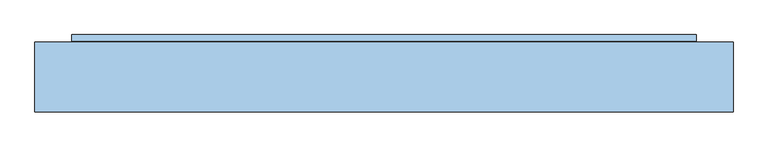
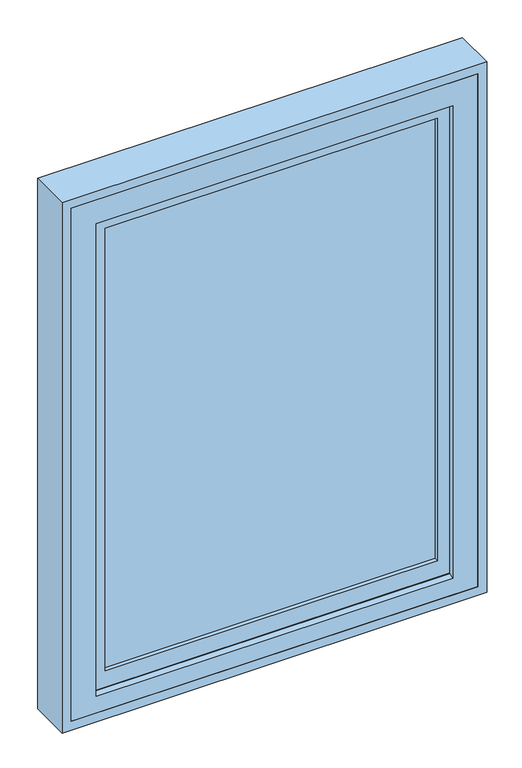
"""IFC4 building model written with IfcOpenShell, lengths in millimetres: window geometry, Окно 1-Распашное - Разделенные наружные и парные внутренние переплеты с остеклением - ГОСТ 11214-2003 : ОД РСП Г1 1760-1320-138 ГОСТ 11214-2003."""

from ifc_helpers import new_model, si_unit, frame, origin, place, context, project, spatial, polyline, outline, extrude, faceted_brep, source, transform, mapped, element, save


def window_8fb4b093(model_context):
    return source(origin(), model_context, "Body", "SolidModel", [
        extrude(outline(polyline([(2620.0, 670.0), (2620.0, -710.0), (800.0, -710.0), (800.0, 670.0), (2620.0, 670.0)]), holes=[polyline([(2590.0, -680.0), (2590.0, 640.0), (830.0, 640.0), (830.0, -680.0), (2590.0, -680.0)])]), frame((0.0, -305.0, 0.0), z_axis=(0.0, 1.0, 0.0), x_axis=(0.0, 0.0, 1.0)), (0.0, 0.0, 1.0), 138.0),
        extrude(outline(polyline([(-579.0, -271.0), (539.0, -271.0), (539.0, -274.0), (-579.0, -274.0), (-579.0, -271.0)])), frame((0.0, 0.0, 931.0), z_axis=(0.0, 0.0, 1.0), x_axis=(1.0, 0.0, 0.0)), (0.0, 0.0, 1.0), 1558.0),
        extrude(outline(polyline([(-592.0, -212.0), (552.0, -212.0), (552.0, -215.0), (-592.0, -215.0), (-592.0, -212.0)])), frame((0.0, 0.0, 918.0), z_axis=(0.0, 0.0, 1.0), x_axis=(1.0, 0.0, 0.0)), (0.0, 0.0, 1.0), 1584.0),
        extrude(outline(polyline([(-592.0, -165.0), (552.0, -165.0), (552.0, -168.0), (-592.0, -168.0), (-592.0, -165.0)])), frame((0.0, 0.0, 918.0), z_axis=(0.0, 0.0, 1.0), x_axis=(1.0, 0.0, 0.0)), (0.0, 0.0, 1.0), 1584.0),
        faceted_brep([(584.0, -259.0, 2534.0), (584.0, -259.0, 886.0), (584.0, -246.0, 886.0), (584.0, -246.0, 2534.0), (-624.0, -246.0, 886.0), (-624.0, -246.0, 2534.0), (519.0, -246.0, 951.0), (519.0, -246.0, 2469.0), (-559.0, -246.0, 2469.0), (-559.0, -246.0, 951.0), (-624.0, -259.0, 886.0), (-624.0, -259.0, 2534.0), (575.0, -259.0, 2525.0), (575.0, -259.0, 895.0), (-615.0, -259.0, 895.0), (-615.0, -259.0, 2525.0), (575.0, -287.0, 2525.0), (575.0, -287.0, 895.0), (-615.0, -287.0, 895.0), (-615.0, -287.0, 2525.0), (519.0, -287.0, 2469.0), (519.0, -287.0, 951.0), (-559.0, -287.0, 951.0), (-559.0, -287.0, 2469.0), (519.0, -271.0, 951.0), (519.0, -271.0, 2469.0), (539.0, -271.0, 931.0), (539.0, -271.0, 2489.0), (-579.0, -271.0, 2489.0), (-579.0, -271.0, 931.0), (-559.0, -271.0, 951.0), (-559.0, -271.0, 2469.0), (-559.0, -274.0, 951.0), (-559.0, -274.0, 2469.0), (519.0, -274.0, 951.0), (519.0, -274.0, 2469.0), (539.0, -274.0, 2489.0), (539.0, -274.0, 931.0), (-579.0, -274.0, 931.0), (-579.0, -274.0, 2489.0)], [[[0, 1, 2, 3]], [[3, 2, 4, 5], [6, 7, 8, 9]], [[1, 10, 4, 2]], [[1, 0, 11, 10], [12, 13, 14, 15]], [[16, 17, 13, 12]], [[17, 18, 14, 13]], [[17, 16, 19, 18], [20, 21, 22, 23]], [[7, 6, 24, 25]], [[26, 27, 28, 29], [25, 24, 30, 31]], [[6, 9, 30, 24]], [[10, 11, 5, 4]], [[18, 19, 15, 14]], [[9, 8, 31, 30]], [[32, 33, 23, 22]], [[34, 32, 22, 21]], [[35, 34, 21, 20]], [[36, 37, 38, 39], [34, 35, 33, 32]], [[27, 26, 37, 36]], [[26, 29, 38, 37]], [[29, 28, 39, 38]], [[11, 0, 3, 5]], [[19, 16, 12, 15]], [[8, 7, 25, 31]], [[33, 35, 20, 23]], [[28, 27, 36, 39]]]),
        faceted_brep([(587.0, -228.0, 2537.0), (587.0, -228.0, 883.0), (587.0, -196.0, 883.0), (587.0, -196.0, 2537.0), (-627.0, -196.0, 883.0), (-627.0, -196.0, 2537.0), (532.0, -196.0, 938.0), (532.0, -196.0, 2482.0), (-572.0, -196.0, 2482.0), (-572.0, -196.0, 938.0), (-627.0, -228.0, 883.0), (-627.0, -228.0, 2537.0), (532.0, -228.0, 2482.0), (532.0, -228.0, 938.0), (-572.0, -228.0, 938.0), (-572.0, -228.0, 2482.0), (532.0, -212.0, 938.0), (532.0, -212.0, 2482.0), (552.0, -212.0, 918.0), (552.0, -212.0, 2502.0), (-592.0, -212.0, 2502.0), (-592.0, -212.0, 918.0), (-572.0, -212.0, 938.0), (-572.0, -212.0, 2482.0), (-572.0, -215.0, 938.0), (-572.0, -215.0, 2482.0), (532.0, -215.0, 938.0), (532.0, -215.0, 2482.0), (552.0, -215.0, 2502.0), (552.0, -215.0, 918.0), (-592.0, -215.0, 918.0), (-592.0, -215.0, 2502.0)], [[[0, 1, 2, 3]], [[3, 2, 4, 5], [6, 7, 8, 9]], [[1, 10, 4, 2]], [[1, 0, 11, 10], [12, 13, 14, 15]], [[7, 6, 16, 17]], [[18, 19, 20, 21], [17, 16, 22, 23]], [[6, 9, 22, 16]], [[10, 11, 5, 4]], [[9, 8, 23, 22]], [[24, 25, 15, 14]], [[26, 24, 14, 13]], [[27, 26, 13, 12]], [[28, 29, 30, 31], [26, 27, 25, 24]], [[19, 18, 29, 28]], [[18, 21, 30, 29]], [[21, 20, 31, 30]], [[11, 0, 3, 5]], [[8, 7, 17, 23]], [[25, 27, 12, 15]], [[20, 19, 28, 31]]]),
        faceted_brep([(597.0, -165.0, 2547.0), (597.0, -165.0, 873.0), (597.0, -152.0, 873.0), (597.0, -152.0, 2547.0), (-637.0, -152.0, 873.0), (-637.0, -152.0, 2547.0), (532.0, -152.0, 938.0), (532.0, -152.0, 2482.0), (-572.0, -152.0, 2482.0), (-572.0, -152.0, 938.0), (-637.0, -165.0, 873.0), (-637.0, -165.0, 2547.0), (587.0, -165.0, 2537.0), (587.0, -165.0, 883.0), (-627.0, -165.0, 883.0), (-627.0, -165.0, 2537.0), (587.0, -194.0, 2537.0), (587.0, -194.0, 883.0), (-627.0, -194.0, 883.0), (-627.0, -194.0, 2537.0), (532.0, -194.0, 2482.0), (532.0, -194.0, 938.0), (-572.0, -194.0, 938.0), (-572.0, -194.0, 2482.0), (532.0, -165.0, 938.0), (532.0, -165.0, 2482.0), (552.0, -165.0, 918.0), (552.0, -165.0, 2502.0), (-592.0, -165.0, 2502.0), (-592.0, -165.0, 918.0), (-572.0, -165.0, 938.0), (-572.0, -165.0, 2482.0), (-572.0, -168.0, 938.0), (-572.0, -168.0, 2482.0), (532.0, -168.0, 938.0), (532.0, -168.0, 2482.0), (552.0, -168.0, 2502.0), (552.0, -168.0, 918.0), (-592.0, -168.0, 918.0), (-592.0, -168.0, 2502.0)], [[[0, 1, 2, 3]], [[3, 2, 4, 5], [6, 7, 8, 9]], [[1, 10, 4, 2]], [[1, 0, 11, 10], [12, 13, 14, 15]], [[16, 17, 13, 12]], [[17, 18, 14, 13]], [[17, 16, 19, 18], [20, 21, 22, 23]], [[7, 6, 24, 25]], [[26, 27, 28, 29], [25, 24, 30, 31]], [[6, 9, 30, 24]], [[10, 11, 5, 4]], [[18, 19, 15, 14]], [[9, 8, 31, 30]], [[32, 33, 23, 22]], [[34, 32, 22, 21]], [[35, 34, 21, 20]], [[36, 37, 38, 39], [34, 35, 33, 32]], [[27, 26, 37, 36]], [[26, 29, 38, 37]], [[29, 28, 39, 38]], [[11, 0, 3, 5]], [[19, 16, 12, 15]], [[8, 7, 25, 31]], [[33, 35, 20, 23]], [[28, 27, 36, 39]]]),
        faceted_brep([(640.0, -305.0, 830.0), (-680.0, -305.0, 830.0), (-680.0, -167.0, 830.0), (640.0, -167.0, 830.0), (640.0, -167.0, 2590.0), (640.0, -305.0, 2590.0), (-680.0, -167.0, 2590.0), (589.0, -167.0, 2539.0), (-629.0, -167.0, 2539.0), (-629.0, -167.0, 881.0), (589.0, -167.0, 881.0), (-680.0, -305.0, 2590.0), (-599.0, -305.0, 2509.0), (559.0, -305.0, 2509.0), (559.0, -305.0, 887.1764763), (-599.0, -305.0, 887.1764763), (-599.0, -289.0, 893.0), (-599.0, -289.0, 2509.0), (559.0, -289.0, 893.0), (559.0, -289.0, 2509.0), (589.0, -261.0, 881.0), (589.0, -261.0, 2539.0), (-629.0, -261.0, 881.0), (-629.0, -261.0, 2539.0), (577.0, -261.0, 2527.0), (-617.0, -261.0, 2527.0), (-617.0, -261.0, 893.0), (577.0, -261.0, 893.0), (577.0, -289.0, 893.0), (577.0, -289.0, 2527.0), (-617.0, -289.0, 893.0), (-617.0, -289.0, 2527.0)], [[[0, 1, 2, 3]], [[4, 5, 0, 3]], [[2, 6, 4, 3], [7, 8, 9, 10]], [[2, 1, 11, 6]], [[0, 5, 11, 1], [12, 13, 14, 15]], [[12, 15, 16, 17]], [[14, 18, 16, 15]], [[19, 18, 14, 13]], [[7, 10, 20, 21]], [[9, 22, 20, 10]], [[22, 9, 8, 23]], [[21, 20, 22, 23], [24, 25, 26, 27]], [[24, 27, 28, 29]], [[26, 30, 16, 18, 28, 27]], [[31, 30, 26, 25]], [[29, 28, 18, 19, 17, 16, 30, 31]], [[12, 17, 19, 13]], [[5, 4, 6, 11]], [[7, 21, 23, 8]], [[24, 29, 31, 25]]]),
    ])


if __name__ == "__main__":
    model = new_model("IFC4")
    model_context = context("Model", 3, world=origin())
    ifc_project = project(units=[si_unit("LENGTHUNIT", "METRE", prefix="MILLI")], contexts=[model_context])
    site = spatial("IfcSite", under=ifc_project)
    building = spatial("IfcBuilding", under=site)
    placement = place(None, origin())
    window_shape = window_8fb4b093(model_context)
    element("IfcWindow", 1, ObjectType="Окно 1-Распашное - Разделенные наружные и парные внутренние переплеты с остеклением - ГОСТ 11214-2003 : ОД РСП Г1 1760-1320-138 ГОСТ 11214-2003", at=placement, inside=building, context=model_context, shape_type="MappedRepresentation", body=[
        mapped(window_shape, transform((0.0, 0.0, 0.0), x_axis=(1.0, 0.0, 0.0), y_axis=(0.0, 1.0, 0.0), z_axis=(0.0, 0.0, 1.0))),
    ])
    save(model, "model.ifc")
